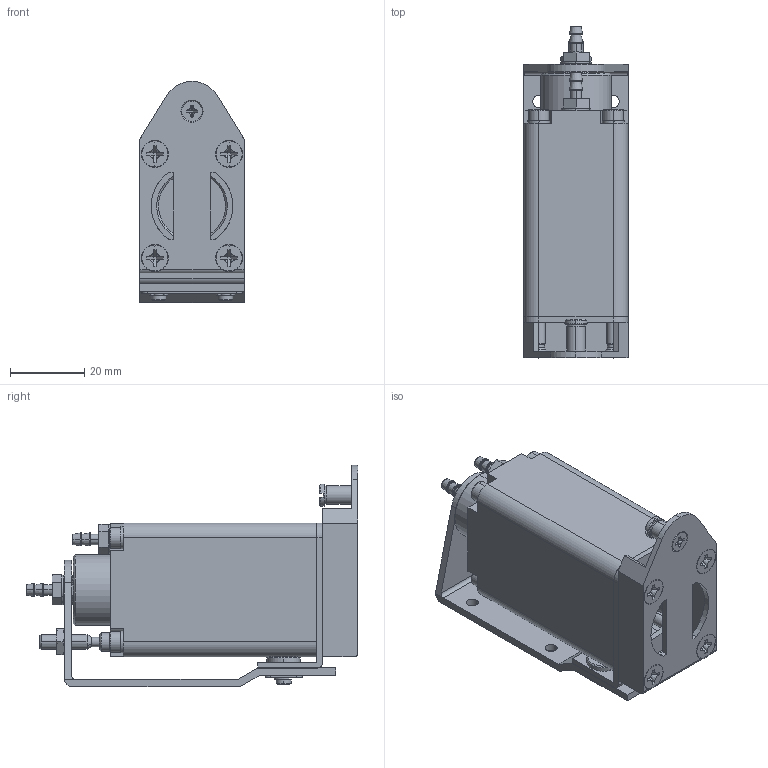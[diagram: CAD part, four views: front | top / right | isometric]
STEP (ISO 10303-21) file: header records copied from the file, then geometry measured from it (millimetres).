
FILE_DESCRIPTION (( 'STEP AP214' ), '1' );
FILE_NAME ('GT-NY10R.STEP', '2019-11-13T06:02:28', ( '微软用户' ), ( '微软中国' ), 'SwSTEP 2.0', 'SolidWorks 2016', '' );
FILE_SCHEMA (( 'AUTOMOTIVE_DESIGN' ));
Length unit declared in the file: millimetre
Products named in the file (1): GT-NY10R
Bounding box: 28 x 89.3 x 59.5 mm (x, y, z)
Surface area: 27775.9 mm2 (no closed solid volume)
Topology: 0 solids, 111 shells, 858 faces, 2341 edges, 1646 vertices
Faces by surface type: plane 393, cylinder 299, bspline 98, cone 52, torus 16
Entity records: 39380 total; most frequent: CARTESIAN_POINT 13450, ORIENTED_EDGE 4208, DIRECTION 4111, EDGE_CURVE 2331, VERTEX_POINT 1646, AXIS2_PLACEMENT_3D 1559, LINE 993, VECTOR 993
